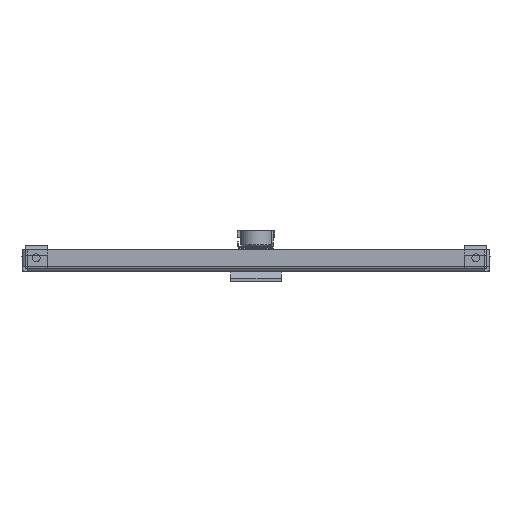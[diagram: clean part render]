
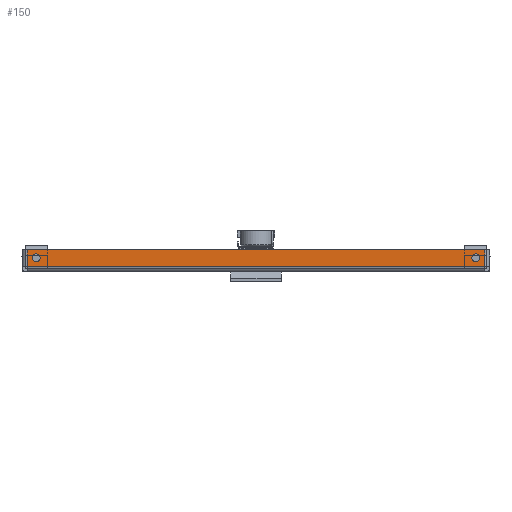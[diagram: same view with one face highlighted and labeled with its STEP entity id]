
A CAD part, left-side view. The second image highlights one B-rep face of the part: STEP entity #150.
In plain terms, the highlighted planar face has unit normal (-1, 0, 0).
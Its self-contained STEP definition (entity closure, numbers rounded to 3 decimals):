
#150=ADVANCED_FACE('',(#799,#801,#803),#805,.F.);
#799=FACE_BOUND('',#800,.T.);
#800=EDGE_LOOP('',(#3544,#3545,#3546,#3547));
#801=FACE_BOUND('',#802,.T.);
#802=EDGE_LOOP('',(#3548));
#803=FACE_BOUND('',#804,.T.);
#804=EDGE_LOOP('',(#3549));
#805=PLANE('',#806);
#806=AXIS2_PLACEMENT_3D('',#807,#808,#809);
#807=CARTESIAN_POINT('',(-493.2,0.,0.));
#808=DIRECTION('',(1.,0.,0.));
#809=DIRECTION('',(0.,-1.,0.));
#3544=ORIENTED_EDGE('',*,*,#5313,.F.);
#3545=ORIENTED_EDGE('',*,*,#5315,.F.);
#3546=ORIENTED_EDGE('',*,*,#5316,.F.);
#3547=ORIENTED_EDGE('',*,*,#5317,.F.);
#3548=ORIENTED_EDGE('',*,*,#5130,.T.);
#3549=ORIENTED_EDGE('',*,*,#5132,.F.);
#5130=EDGE_CURVE('',#6046,#6046,#6047,.T.);
#5132=EDGE_CURVE('',#6050,#6050,#6051,.T.);
#5313=EDGE_CURVE('',#6352,#6345,#6356,.T.);
#5315=EDGE_CURVE('',#6358,#6352,#6359,.T.);
#5316=EDGE_CURVE('',#6360,#6358,#6361,.T.);
#5317=EDGE_CURVE('',#6345,#6360,#6362,.T.);
#6046=VERTEX_POINT('',#7552);
#6047=CIRCLE('',#7553,2.5);
#6050=VERTEX_POINT('',#7562);
#6051=CIRCLE('',#7563,2.5);
#6345=VERTEX_POINT('',#8305);
#6352=VERTEX_POINT('',#8325);
#6356=LINE('',#8336,#8337);
#6358=VERTEX_POINT('',#8342);
#6359=LINE('',#8343,#8344);
#6360=VERTEX_POINT('',#8346);
#6361=LINE('',#8347,#8348);
#6362=LINE('',#8350,#8351);
#7552=CARTESIAN_POINT('',(-493.2,-139.5,11.5));
#7553=AXIS2_PLACEMENT_3D('',#7554,#7555,#7556);
#7554=CARTESIAN_POINT('',(-493.2,-139.5,9.));
#7555=DIRECTION('',(1.,0.,0.));
#7556=DIRECTION('',(0.,0.,1.));
#7562=CARTESIAN_POINT('',(-493.2,139.5,11.5));
#7563=AXIS2_PLACEMENT_3D('',#7564,#7565,#7566);
#7564=CARTESIAN_POINT('',(-493.2,139.5,9.));
#7565=DIRECTION('',(-1.,0.,0.));
#7566=DIRECTION('',(0.,0.,-1.));
#8305=CARTESIAN_POINT('',(-493.2,145.1,3.4));
#8325=CARTESIAN_POINT('',(-493.2,-145.1,3.4));
#8336=CARTESIAN_POINT('',(-493.2,-145.1,3.4));
#8337=VECTOR('',#8338,1.);
#8338=DIRECTION('',(0.,1.,0.));
#8342=CARTESIAN_POINT('',(-493.2,-145.1,14.));
#8343=CARTESIAN_POINT('',(-493.2,-145.1,14.));
#8344=VECTOR('',#8345,1.);
#8345=DIRECTION('',(0.,0.,-1.));
#8346=CARTESIAN_POINT('',(-493.2,145.1,14.));
#8347=CARTESIAN_POINT('',(-493.2,145.1,14.));
#8348=VECTOR('',#8349,1.);
#8349=DIRECTION('',(0.,-1.,0.));
#8350=CARTESIAN_POINT('',(-493.2,145.1,3.4));
#8351=VECTOR('',#8352,1.);
#8352=DIRECTION('',(0.,0.,1.));
